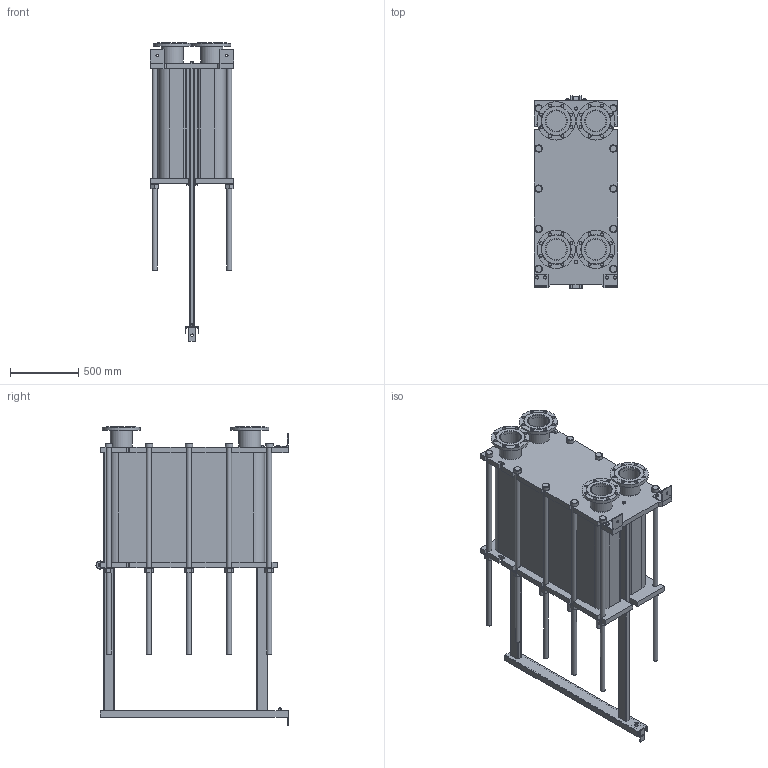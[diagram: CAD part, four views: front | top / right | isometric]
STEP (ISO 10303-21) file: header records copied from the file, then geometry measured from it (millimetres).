
FILE_DESCRIPTION(/* description */ (''),/* implementation_level */ '2;1');
FILE_NAME(/* name */ 'C:\Users\zhuro\Desktop\ENCO\TO\ЭН-041\ЭН-0,5-041-233-1.stp',/* time_stamp */ '2022-06-06T11:08:02+03:00',/* author */ ('zhuro'),/* organization */ (''),/* preprocessor_version */ 'ST-DEVELOPER v18.1',/* originating_system */ 'Autodesk Inventor 2022',/* authorisation */ '');
FILE_SCHEMA (('AUTOMOTIVE_DESIGN { 1 0 10303 214 3 1 1 }'));
Length unit declared in the file: millimetre
Products named in the file (1): ЭН-0,5-041-233-1
Bounding box: 610 x 1406.5 x 2187.5 mm (x, y, z)
Volume: 541934608.8 mm3; surface area: 11957052.1 mm2
Topology: 52 solids, 52 shells, 711 faces, 1696 edges, 1094 vertices
Faces by surface type: plane 487, cylinder 177, cone 41, torus 6
Full cylindrical faces by diameter (mm): 8 x4, 10 x2, 16 x8, 18 x3, 22 x32, 36 x24, 50 x1, 54 x10, 60 x12, 151 x4, 161 x8, 280 x4
Entity records: 22667 total; most frequent: CARTESIAN_POINT 5230, DIRECTION 3644, ORIENTED_EDGE 3392, EDGE_CURVE 1696, AXIS2_PLACEMENT_3D 1272, LINE 1100, VECTOR 1100, VERTEX_POINT 1094
